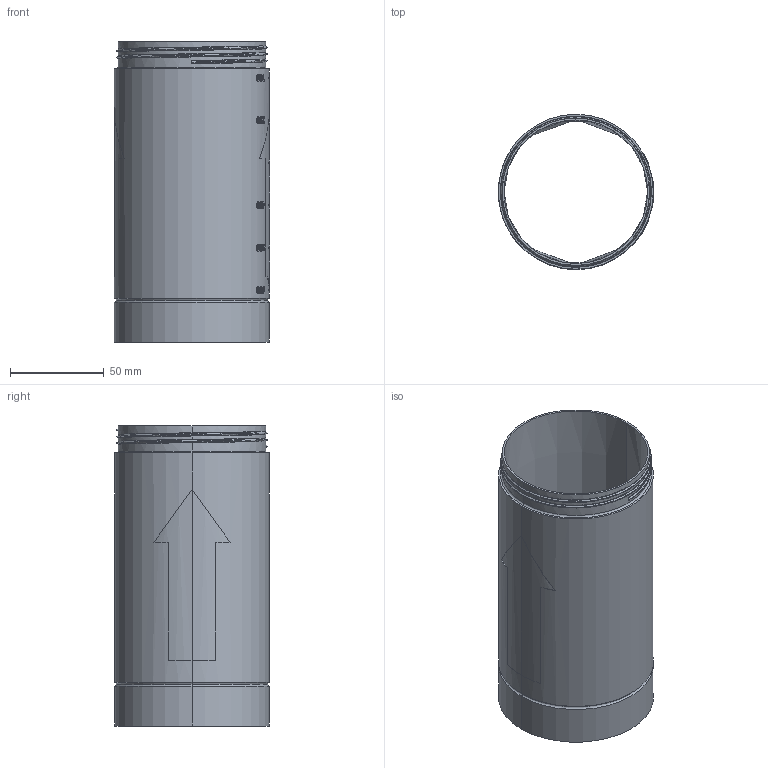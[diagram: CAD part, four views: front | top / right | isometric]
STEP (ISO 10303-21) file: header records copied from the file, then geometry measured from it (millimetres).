
FILE_DESCRIPTION(/* description */ (''),/* implementation_level */ '2;1');
FILE_NAME(/* name */ '16697-1_stp.stp',/* time_stamp */ '2019-04-17T14:29:54+08:00',/* author */ (''),/* organization */ (''),/* preprocessor_version */ 'ST-DEVELOPER v16',/* originating_system */ 'SIEMENS PLM Software NX 10.0',/* authorisation */ '');
FILE_SCHEMA (('AP203_CONFIGURATION_CONTROLLED_3D_DESIGN_OF_MECHANICAL_PARTS_AND_ASSEMBLIES_MIM_LF { 1 0 10303 403 2 1 2}'));
Length unit declared in the file: millimetre
Products named in the file (1): 16697-1_stp
Bounding box: 82.87 x 82.72 x 160.18 mm (x, y, z)
Volume: 108919 mm3; surface area: 82580.8 mm2
Topology: 1 solids, 1 shells, 646 faces, 1740 edges, 1146 vertices
Faces by surface type: plane 245, cylinder 168, extrusion 156, bspline 29, torus 22, sphere 16, cone 10
Entity records: 36898 total; most frequent: CARTESIAN_POINT 17196, ORIENTED_EDGE 3480, DIRECTION 2511, EDGE_CURVE 1740, VERTEX_POINT 1146, AXIS2_PLACEMENT_3D 846, B_SPLINE_CURVE_WITH_KNOTS 831, VECTOR 819
